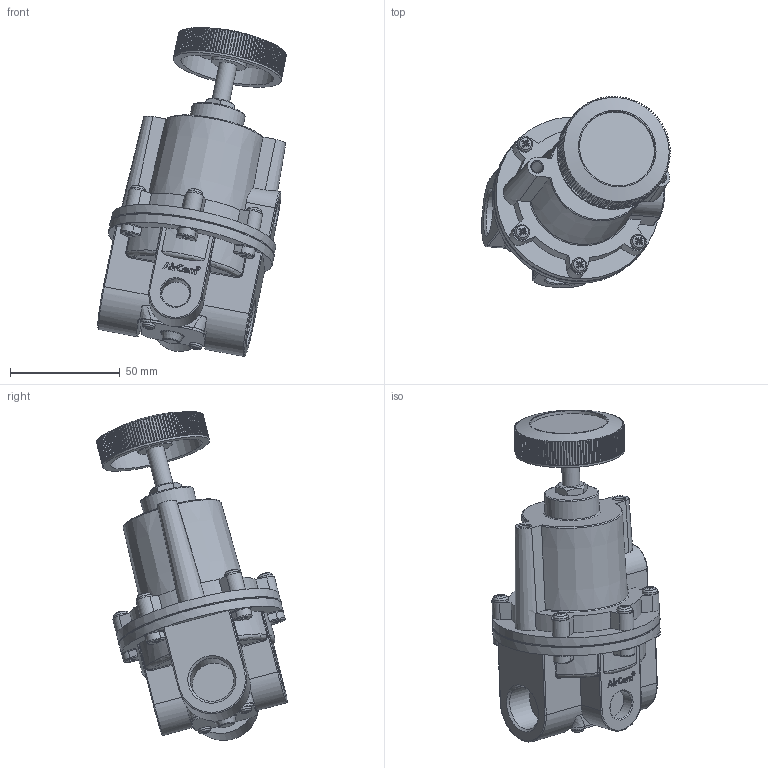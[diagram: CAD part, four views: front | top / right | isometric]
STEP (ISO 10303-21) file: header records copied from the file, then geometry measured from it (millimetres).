
FILE_DESCRIPTION((''),'2;1');
FILE_NAME('F:\AirCom-Produktdokumentation\Druckregler\R240\CAD\CAD AirCom\3D\B-R240-04.stp','2009-09-24T16:01:03',('Frank Schroers'),(''),'Autodesk Inventor 2008','Autodesk Inventor 2008','');
FILE_SCHEMA(('AUTOMOTIVE_DESIGN { 1 0 10303 214 1 1 1 1 }'));
Length unit declared in the file: millimetre
Products named in the file (9): B-R240-04; B-R240-04-Oberteil; B-R240-04-Bodenblech; B-R240-04-Dichtung; B-R240-04-Gehaeuse; B-R240-04-Knopf; DIN EN 24035 M8; DIN EN ISO 7045 Z M3,5 x 20 - 4.8 - Z; DIN EN ISO 7045 Z M3 x 4 - 4.8 - Z
Assembly tree (14 placements, depth 2):
  B-R240-04
    B-R240-04-Oberteil
    B-R240-04-Bodenblech
    B-R240-04-Dichtung
    B-R240-04-Gehaeuse
    B-R240-04-Knopf
    DIN EN 24035 M8
    DIN EN ISO 7045 Z M3,5 x 20 - 4.8 - Z  x6
    DIN EN ISO 7045 Z M3 x 4 - 4.8 - Z  x2
Bounding box: 85.71 x 86.8 x 149.47 mm (x, y, z)
Volume: 274093.2 mm3; surface area: 68376.5 mm2
Topology: 14 solids, 14 shells, 1201 faces, 3245 edges, 2102 vertices
Faces by surface type: plane 792, cylinder 150, cone 147, torus 61, bspline 43, sphere 8
Full cylindrical faces by diameter (mm): 0.801 x1, 1.863 x1, 2.729 x2, 3 x2, 3.175 x6, 3.2 x12, 3.5 x8, 4 x6, 5 x2, 7 x1, 8 x1, 11 x1, 13 x2, 16 x1, 20 x2, 24.7 x1, 35 x1, 43 x1, 50 x1, 76 x2, 76.368 x1
Entity records: 33173 total; most frequent: CARTESIAN_POINT 10023, ORIENTED_EDGE 5034, DIRECTION 4544, EDGE_CURVE 2517, VERTEX_POINT 1687, AXIS2_PLACEMENT_3D 1635, VECTOR 1274, LINE 1274
